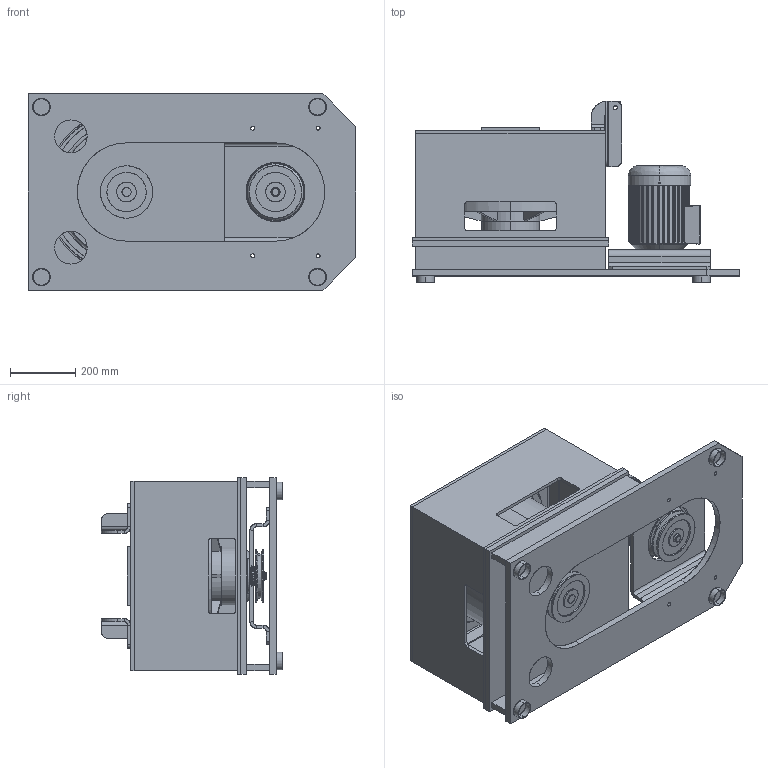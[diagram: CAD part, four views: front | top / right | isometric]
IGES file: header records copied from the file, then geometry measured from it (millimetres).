
Start section: SolidWorks IGES file using analytic representation for surfaces
Global section: file name: C:\Users\EJDO\Desktop\purification.IGS; native system: SolidWorks 2013; preprocessor: SolidWorks 2013; author: EJDO; date: 130123.213613; units: millimetre
Bounding box: 1000 x 554 x 600 mm (x, y, z)
Surface area: 7707129.5 mm2 (no closed solid volume)
Topology: 0 solids, 0 shells, 1109 faces, 21143 edges, 21139 vertices
Faces by surface type: revolution 642, bspline 467
